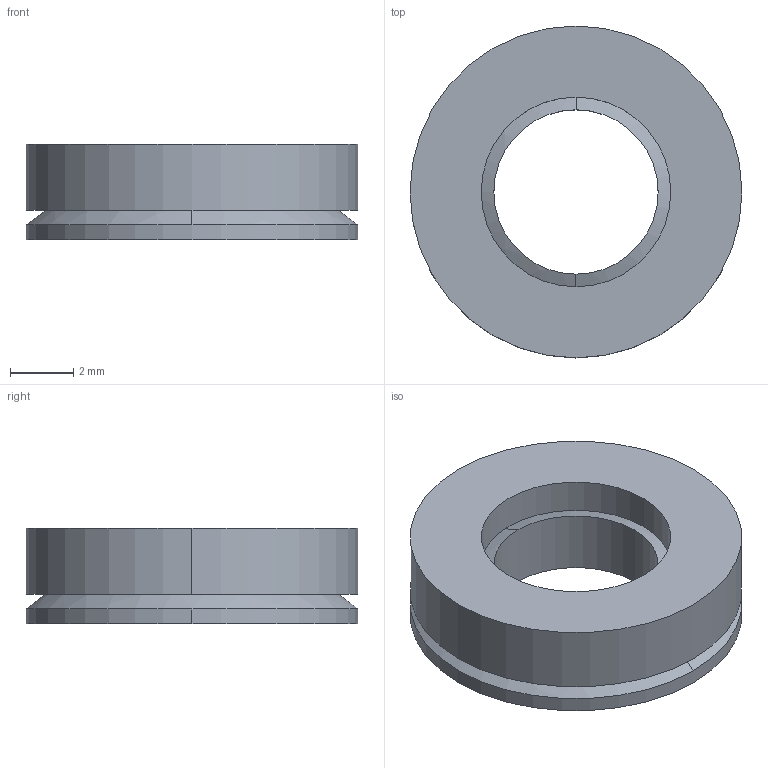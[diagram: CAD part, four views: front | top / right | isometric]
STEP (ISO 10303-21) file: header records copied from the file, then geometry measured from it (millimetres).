
FILE_DESCRIPTION (( 'STEP AP214' ), '1' );
FILE_NAME ('PLF01-12.STEP', '2004-09-02T07:01:00', ( 'Mitarbeiter' ), ( 'Firma' ), 'SwSTEP 2.0', 'SolidWorks 2001287', '' );
FILE_SCHEMA (( 'AUTOMOTIVE_DESIGN' ));
Length unit declared in the file: millimetre
Products named in the file (3): BallWasher; SocketWasher; PLF01-12
Assembly tree (2 placements, depth 2):
  PLF01-12
    SocketWasher
    BallWasher
Bounding box: 10.5 x 10.5 x 3.03 mm (x, y, z)
Volume: 185.2 mm3; surface area: 403.5 mm2
Topology: 2 solids, 2 shells, 15 faces, 34 edges, 22 vertices
Faces by surface type: cylinder 8, plane 3, cone 2, sphere 2
Entity records: 522 total; most frequent: DIRECTION 96, CARTESIAN_POINT 75, ORIENTED_EDGE 68, AXIS2_PLACEMENT_3D 43, EDGE_CURVE 34, CIRCLE 24, VERTEX_POINT 22, EDGE_LOOP 18
